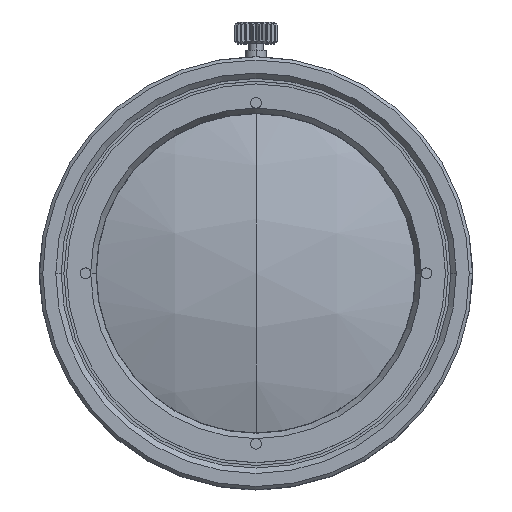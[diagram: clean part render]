
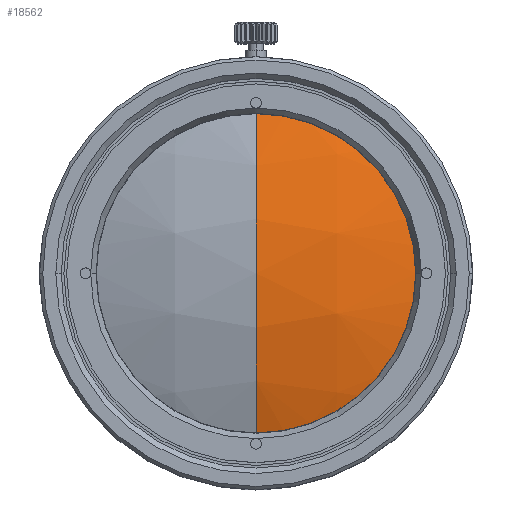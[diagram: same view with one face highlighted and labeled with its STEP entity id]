
A CAD part, top view. The second image highlights one B-rep face of the part: STEP entity #18562.
In plain terms, the highlighted spherical face has radius 42.63 mm.
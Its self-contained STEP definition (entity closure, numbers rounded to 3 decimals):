
#3545 = CARTESIAN_POINT ( 'NONE',  ( 0., -14.778, 37.456 ) ) ;
#3756 = ORIENTED_EDGE ( 'NONE', *, *, #57587, .T. ) ;
#4743 = CARTESIAN_POINT ( 'NONE',  ( 0., 0., -2.53 ) ) ;
#5162 = CARTESIAN_POINT ( 'NONE',  ( 0., 14.778, 37.456 ) ) ;
#5967 = CARTESIAN_POINT ( 'NONE',  ( 0., 0., -2.53 ) ) ;
#5999 = DIRECTION ( 'NONE',  ( 1., 0., 0. ) ) ;
#7856 = AXIS2_PLACEMENT_3D ( 'NONE', #36882, #37980, #47733 ) ;
#8376 = CARTESIAN_POINT ( 'NONE',  ( 0., 0., 40.1 ) ) ;
#9838 = DIRECTION ( 'NONE',  ( 0., 1., 0. ) ) ;
#10575 = CIRCLE ( 'NONE', #48428, 42.63 ) ;
#16373 = ORIENTED_EDGE ( 'NONE', *, *, #30200, .T. ) ;
#18419 = EDGE_LOOP ( 'NONE', ( #50993, #27726, #3756, #16373 ) ) ;
#18429 = VERTEX_POINT ( 'NONE', #8376 ) ;
#18562 = ADVANCED_FACE ( 'NONE', ( #51046 ), #20212, .T. ) ;
#19163 = CARTESIAN_POINT ( 'NONE',  ( 14.778, 0., 37.456 ) ) ;
#19216 = DIRECTION ( 'NONE',  ( 0., 0., 1. ) ) ;
#20212 = SPHERICAL_SURFACE ( 'NONE', #45076, 42.63 ) ;
#22840 = AXIS2_PLACEMENT_3D ( 'NONE', #45606, #19216, #23677 ) ;
#23677 = DIRECTION ( 'NONE',  ( -1., 0., 0. ) ) ;
#24347 = DIRECTION ( 'NONE',  ( 1., 0., 0. ) ) ;
#25243 = DIRECTION ( 'NONE',  ( 0., 1., 0. ) ) ;
#27726 = ORIENTED_EDGE ( 'NONE', *, *, #54940, .T. ) ;
#28828 = CARTESIAN_POINT ( 'NONE',  ( 0., 0., -2.53 ) ) ;
#30200 = EDGE_CURVE ( 'NONE', #48899, #49093, #46510, .T. ) ;
#31067 = EDGE_CURVE ( 'NONE', #18429, #49093, #10575, .T. ) ;
#32304 = DIRECTION ( 'NONE',  ( -1., 0., 0. ) ) ;
#36882 = CARTESIAN_POINT ( 'NONE',  ( 0., 0., 37.456 ) ) ;
#37980 = DIRECTION ( 'NONE',  ( 0., 0., 1. ) ) ;
#39116 = CIRCLE ( 'NONE', #51426, 42.63 ) ;
#45076 = AXIS2_PLACEMENT_3D ( 'NONE', #28828, #5999, #25243 ) ;
#45606 = CARTESIAN_POINT ( 'NONE',  ( 0., 0., 37.456 ) ) ;
#46510 = CIRCLE ( 'NONE', #22840, 14.778 ) ;
#47733 = DIRECTION ( 'NONE',  ( -1., 0., 0. ) ) ;
#48428 = AXIS2_PLACEMENT_3D ( 'NONE', #4743, #32304, #54507 ) ;
#48899 = VERTEX_POINT ( 'NONE', #19163 ) ;
#49093 = VERTEX_POINT ( 'NONE', #5162 ) ;
#50063 = VERTEX_POINT ( 'NONE', #3545 ) ;
#50993 = ORIENTED_EDGE ( 'NONE', *, *, #31067, .F. ) ;
#51046 = FACE_OUTER_BOUND ( 'NONE', #18419, .T. ) ;
#51426 = AXIS2_PLACEMENT_3D ( 'NONE', #5967, #24347, #9838 ) ;
#54507 = DIRECTION ( 'NONE',  ( 0., 0., 1. ) ) ;
#54940 = EDGE_CURVE ( 'NONE', #18429, #50063, #39116, .T. ) ;
#57028 = CIRCLE ( 'NONE', #7856, 14.778 ) ;
#57587 = EDGE_CURVE ( 'NONE', #50063, #48899, #57028, .T. ) ;
